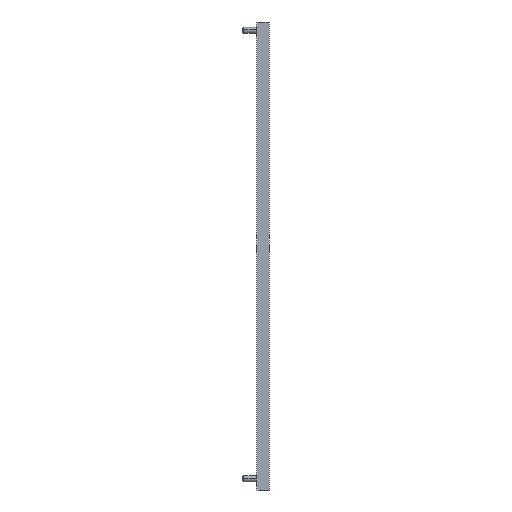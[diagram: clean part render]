
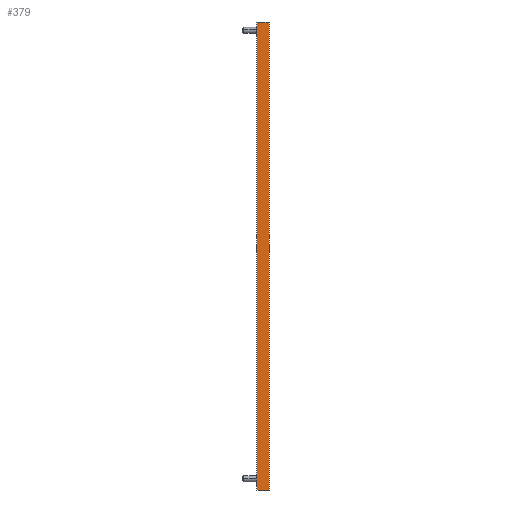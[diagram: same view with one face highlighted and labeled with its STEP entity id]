
A CAD part, left-side view. The second image highlights one B-rep face of the part: STEP entity #379.
In plain terms, the highlighted planar face has unit normal (-1, 0, 0).
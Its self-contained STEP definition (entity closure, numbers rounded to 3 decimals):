
#39 = VECTOR ( 'NONE', #2675, 1000. ) ;
#277 = DIRECTION ( 'NONE',  ( 0., -1., 0. ) ) ;
#296 = VERTEX_POINT ( 'NONE', #1772 ) ;
#298 = EDGE_CURVE ( 'NONE', #453, #296, #3245, .T. ) ;
#345 = EDGE_LOOP ( 'NONE', ( #2143, #1638, #2595, #2103, #1763, #1227, #2924, #353 ) ) ;
#348 = VECTOR ( 'NONE', #1256, 1000. ) ;
#353 = ORIENTED_EDGE ( 'NONE', *, *, #298, .F. ) ;
#379 = ADVANCED_FACE ( 'NONE', ( #3055 ), #558, .T. ) ;
#453 = VERTEX_POINT ( 'NONE', #2067 ) ;
#468 = CARTESIAN_POINT ( 'NONE',  ( -8., 12.5, 479. ) ) ;
#481 = CARTESIAN_POINT ( 'NONE',  ( -8., 0., 0. ) ) ;
#558 = PLANE ( 'NONE',  #2884 ) ;
#573 = VECTOR ( 'NONE', #3049, 1000. ) ;
#654 = LINE ( 'NONE', #1927, #1929 ) ;
#669 = VERTEX_POINT ( 'NONE', #2951 ) ;
#683 = DIRECTION ( 'NONE',  ( 0., 1., 0. ) ) ;
#701 = DIRECTION ( 'NONE',  ( 0., -1., 0. ) ) ;
#739 = CARTESIAN_POINT ( 'NONE',  ( -8., 0., 479. ) ) ;
#763 = DIRECTION ( 'NONE',  ( 0., 0., 1. ) ) ;
#786 = LINE ( 'NONE', #2551, #2610 ) ;
#982 = CARTESIAN_POINT ( 'NONE',  ( -8., 12.5, 479. ) ) ;
#985 = CARTESIAN_POINT ( 'NONE',  ( -8., 3.2, 0. ) ) ;
#1059 = VERTEX_POINT ( 'NONE', #1676 ) ;
#1099 = CARTESIAN_POINT ( 'NONE',  ( -8., 3.2, 479. ) ) ;
#1132 = CARTESIAN_POINT ( 'NONE',  ( -8., 0., 0. ) ) ;
#1164 = VERTEX_POINT ( 'NONE', #1659 ) ;
#1183 = VECTOR ( 'NONE', #701, 1000. ) ;
#1198 = LINE ( 'NONE', #1132, #1931 ) ;
#1227 = ORIENTED_EDGE ( 'NONE', *, *, #1317, .T. ) ;
#1256 = DIRECTION ( 'NONE',  ( 0., 0., 1. ) ) ;
#1317 = EDGE_CURVE ( 'NONE', #2263, #2092, #2300, .T. ) ;
#1638 = ORIENTED_EDGE ( 'NONE', *, *, #2250, .T. ) ;
#1659 = CARTESIAN_POINT ( 'NONE',  ( -8., 9.3, 0. ) ) ;
#1676 = CARTESIAN_POINT ( 'NONE',  ( -8., 0., 0. ) ) ;
#1763 = ORIENTED_EDGE ( 'NONE', *, *, #1962, .T. ) ;
#1772 = CARTESIAN_POINT ( 'NONE',  ( -8., 9.3, 479. ) ) ;
#1927 = CARTESIAN_POINT ( 'NONE',  ( -8., 0., 479. ) ) ;
#1929 = VECTOR ( 'NONE', #683, 1000. ) ;
#1931 = VECTOR ( 'NONE', #2145, 1000. ) ;
#1962 = EDGE_CURVE ( 'NONE', #1059, #2263, #3009, .T. ) ;
#1994 = DIRECTION ( 'NONE',  ( 0., -1., 0. ) ) ;
#2067 = CARTESIAN_POINT ( 'NONE',  ( -8., 12.5, 479. ) ) ;
#2092 = VERTEX_POINT ( 'NONE', #1099 ) ;
#2096 = CARTESIAN_POINT ( 'NONE',  ( -8., 0., 479. ) ) ;
#2103 = ORIENTED_EDGE ( 'NONE', *, *, #2432, .T. ) ;
#2143 = ORIENTED_EDGE ( 'NONE', *, *, #3217, .F. ) ;
#2145 = DIRECTION ( 'NONE',  ( 0., -1., 0. ) ) ;
#2238 = VERTEX_POINT ( 'NONE', #985 ) ;
#2250 = EDGE_CURVE ( 'NONE', #669, #1164, #2502, .T. ) ;
#2263 = VERTEX_POINT ( 'NONE', #3232 ) ;
#2300 = LINE ( 'NONE', #2096, #573 ) ;
#2432 = EDGE_CURVE ( 'NONE', #2238, #1059, #786, .T. ) ;
#2502 = LINE ( 'NONE', #481, #1183 ) ;
#2551 = CARTESIAN_POINT ( 'NONE',  ( -8., 0., 0. ) ) ;
#2595 = ORIENTED_EDGE ( 'NONE', *, *, #3040, .T. ) ;
#2610 = VECTOR ( 'NONE', #1994, 1000. ) ;
#2632 = EDGE_CURVE ( 'NONE', #2092, #296, #654, .T. ) ;
#2675 = DIRECTION ( 'NONE',  ( 0., 0., 1. ) ) ;
#2724 = LINE ( 'NONE', #468, #39 ) ;
#2803 = CARTESIAN_POINT ( 'NONE',  ( -8., 0., 479. ) ) ;
#2884 = AXIS2_PLACEMENT_3D ( 'NONE', #2803, #3034, #763 ) ;
#2924 = ORIENTED_EDGE ( 'NONE', *, *, #2632, .T. ) ;
#2951 = CARTESIAN_POINT ( 'NONE',  ( -8., 12.5, 0. ) ) ;
#3009 = LINE ( 'NONE', #739, #348 ) ;
#3034 = DIRECTION ( 'NONE',  ( -1., 0., 0. ) ) ;
#3040 = EDGE_CURVE ( 'NONE', #1164, #2238, #1198, .T. ) ;
#3049 = DIRECTION ( 'NONE',  ( 0., 1., 0. ) ) ;
#3050 = VECTOR ( 'NONE', #277, 1000. ) ;
#3055 = FACE_OUTER_BOUND ( 'NONE', #345, .T. ) ;
#3217 = EDGE_CURVE ( 'NONE', #669, #453, #2724, .T. ) ;
#3232 = CARTESIAN_POINT ( 'NONE',  ( -8., 0., 479. ) ) ;
#3245 = LINE ( 'NONE', #982, #3050 ) ;
